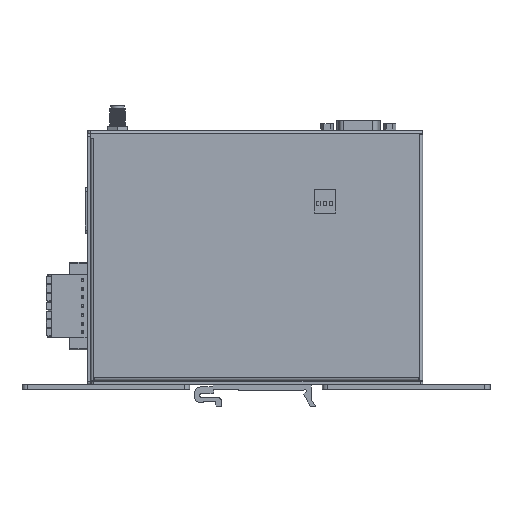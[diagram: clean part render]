
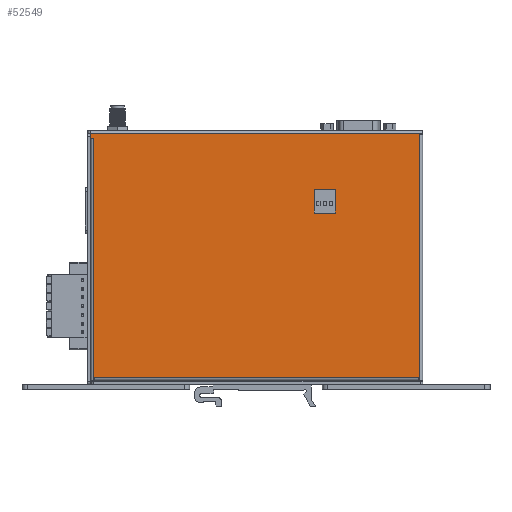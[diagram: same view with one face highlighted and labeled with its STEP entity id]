
A CAD part, front view. The second image highlights one B-rep face of the part: STEP entity #52549.
In plain terms, the highlighted planar face has unit normal (0, -1, 0).
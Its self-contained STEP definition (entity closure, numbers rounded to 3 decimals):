
#12535=DIRECTION('',(-1.,0.,0.));
#12536=VECTOR('',#12535,8.58);
#12537=CARTESIAN_POINT('',(34.858,-8.8,25.624));
#12538=LINE('',#12537,#12536);
#12544=DIRECTION('',(0.,0.,
-1.));
#12545=VECTOR('',#12544,1.203);
#12546=CARTESIAN_POINT('',(68.2,-8.8,-49.797));
#12547=LINE('',#12546,#12545);
#12548=DIRECTION('',(1.,0.,0.));
#12549=VECTOR('',#12548,129.8);
#12550=CARTESIAN_POINT('',(-61.6,-8.8,-49.799));
#12551=LINE('',#12550,#12549);
#15709=DIRECTION('',(0.,0.,-1.));
#15710=VECTOR('',#15709,2.);
#15711=CARTESIAN_POINT('',(-63.1,-8.8,47.8));
#15712=LINE('',#15711,#15710);
#15721=DIRECTION('',(-1.,0.,0.));
#15722=VECTOR('',#15721,132.8);
#15723=CARTESIAN_POINT('',(69.7,-8.8,47.8));
#15724=LINE('',#15723,#15722);
#15742=DIRECTION('',(0.,0.,1.));
#15743=VECTOR('',#15742,0.3);
#15744=CARTESIAN_POINT('',(69.7,-8.8,47.5));
#15745=LINE('',#15744,#15743);
#15787=DIRECTION('',(1.,0.,0.));
#15788=VECTOR('',#15787,1.203);
#15789=CARTESIAN_POINT('',(68.497,-8.8,47.5));
#15790=LINE('',#15789,#15788);
#15795=DIRECTION('',(0.,0.,1.));
#15796=VECTOR('',#15795,98.5);
#15797=CARTESIAN_POINT('',(68.499,-8.8,-51.));
#15798=LINE('',#15797,#15796);
#15901=DIRECTION('',(1.,0.,0.));
#15902=VECTOR('',#15901,0.299);
#15903=CARTESIAN_POINT('',(68.2,-8.8,-51.));
#15904=LINE('',#15903,#15902);
#18668=DIRECTION('',(1.,0.,0.));
#18669=VECTOR('',#18668,1.2);
#18670=CARTESIAN_POINT('',(-63.1,-8.8,45.8));
#18671=LINE('',#18670,#18669);
#18677=DIRECTION('',(0.,0.,-1.));
#18678=VECTOR('',#18677,96.8);
#18679=CARTESIAN_POINT('',(-61.9,-8.8,45.8));
#18680=LINE('',#18679,#18678);
#18690=DIRECTION('',(1.,0.,0.));
#18691=VECTOR('',#18690,0.3);
#18692=CARTESIAN_POINT('',(-61.9,-8.8,-51.));
#18693=LINE('',#18692,#18691);
#19118=DIRECTION('',(0.,0.,1.));
#19119=VECTOR('',#19118,1.201);
#19120=CARTESIAN_POINT('',(-61.6,-8.8,-51.));
#19121=LINE('',#19120,#19119);
#20268=DIRECTION('',(0.,0.,1.));
#20269=VECTOR('',#20268,9.5);
#20270=CARTESIAN_POINT('',(26.278,-8.8,16.124));
#20271=LINE('',#20270,#20269);
#20280=DIRECTION('',(-1.,0.,0.));
#20281=VECTOR('',#20280,8.58);
#20282=CARTESIAN_POINT('',(34.858,-8.8,16.124));
#20283=LINE('',#20282,#20281);
#20292=DIRECTION('',(0.,0.,-1.));
#20293=VECTOR('',#20292,9.5);
#20294=CARTESIAN_POINT('',(34.858,-8.8,25.624));
#20295=LINE('',#20294,#20293);
#33256=CARTESIAN_POINT('',(34.858,-8.8,25.624));
#33257=VERTEX_POINT('',#33256);
#33258=CARTESIAN_POINT('',(68.2,-8.8,-49.797));
#33259=CARTESIAN_POINT('',(68.2,-8.8,-51.));
#33260=VERTEX_POINT('',#33258);
#33261=VERTEX_POINT('',#33259);
#33262=CARTESIAN_POINT('',(-61.6,-8.8,-51.));
#33263=CARTESIAN_POINT('',(-61.6,-8.8,-49.799));
#33264=VERTEX_POINT('',#33262);
#33265=VERTEX_POINT('',#33263);
#33266=CARTESIAN_POINT('',(-61.9,-8.8,-51.));
#33267=VERTEX_POINT('',#33266);
#33268=CARTESIAN_POINT('',(-63.1,-8.8,45.8));
#33269=CARTESIAN_POINT('',(-61.9,-8.8,45.8));
#33270=VERTEX_POINT('',#33268);
#33271=VERTEX_POINT('',#33269);
#33272=CARTESIAN_POINT('',(-63.1,-8.8,47.8));
#33273=VERTEX_POINT('',#33272);
#33274=CARTESIAN_POINT('',(69.7,-8.8,47.5));
#33275=CARTESIAN_POINT('',(69.7,-8.8,47.8));
#33276=VERTEX_POINT('',#33274);
#33277=VERTEX_POINT('',#33275);
#33278=CARTESIAN_POINT('',(68.497,-8.8,47.5));
#33279=VERTEX_POINT('',#33278);
#33280=CARTESIAN_POINT('',(68.499,-8.8,-51.));
#33281=VERTEX_POINT('',#33280);
#33282=CARTESIAN_POINT('',(26.278,-8.8,25.624));
#33283=VERTEX_POINT('',#33282);
#33284=CARTESIAN_POINT('',(26.278,-8.8,16.124));
#33285=VERTEX_POINT('',#33284);
#33286=CARTESIAN_POINT('',(34.858,-8.8,16.124));
#33287=VERTEX_POINT('',#33286);
#52509=CARTESIAN_POINT('',(3.3,-8.8,-1.6));
#52510=DIRECTION('',(0.,1.,0.));
#52511=DIRECTION('',(1.,0.,0.));
#52512=AXIS2_PLACEMENT_3D('',#52509,#52510,#52511);
#52513=PLANE('',#52512);
#52515=ORIENTED_EDGE('',*,*,#52514,.F.);
#52517=ORIENTED_EDGE('',*,*,#52516,.F.);
#52519=ORIENTED_EDGE('',*,*,#52518,.F.);
#52521=ORIENTED_EDGE('',*,*,#52520,.F.);
#52523=ORIENTED_EDGE('',*,*,#52522,.F.);
#52525=ORIENTED_EDGE('',*,*,#52524,.F.);
#52527=ORIENTED_EDGE('',*,*,#52526,.F.);
#52529=ORIENTED_EDGE('',*,*,#52528,.F.);
#52531=ORIENTED_EDGE('',*,*,#52530,.F.);
#52533=ORIENTED_EDGE('',*,*,#52532,.F.);
#52535=ORIENTED_EDGE('',*,*,#52534,.F.);
#52537=ORIENTED_EDGE('',*,*,#52536,.F.);
#52538=EDGE_LOOP('',(#52515,#52517,#52519,#52521,#52523,#52525,#52527,#52529,
#52531,#52533,#52535,#52537));
#52539=FACE_OUTER_BOUND('',#52538,.F.);
#52540=ORIENTED_EDGE('',*,*,#52499,.T.);
#52542=ORIENTED_EDGE('',*,*,#52541,.F.);
#52544=ORIENTED_EDGE('',*,*,#52543,.F.);
#52546=ORIENTED_EDGE('',*,*,#52545,.F.);
#52547=EDGE_LOOP('',(#52540,#52542,#52544,#52546));
#52548=FACE_BOUND('',#52547,.F.);
#52499=EDGE_CURVE('',#33257,#33283,#12538,.T.);
#52514=EDGE_CURVE('',#33260,#33261,#12547,.T.);
#52516=EDGE_CURVE('',#33265,#33260,#12551,.T.);
#52518=EDGE_CURVE('',#33264,#33265,#19121,.T.);
#52520=EDGE_CURVE('',#33267,#33264,#18693,.T.);
#52522=EDGE_CURVE('',#33271,#33267,#18680,.T.);
#52524=EDGE_CURVE('',#33270,#33271,#18671,.T.);
#52526=EDGE_CURVE('',#33273,#33270,#15712,.T.);
#52528=EDGE_CURVE('',#33277,#33273,#15724,.T.);
#52530=EDGE_CURVE('',#33276,#33277,#15745,.T.);
#52532=EDGE_CURVE('',#33279,#33276,#15790,.T.);
#52534=EDGE_CURVE('',#33281,#33279,#15798,.T.);
#52536=EDGE_CURVE('',#33261,#33281,#15904,.T.);
#52541=EDGE_CURVE('',#33285,#33283,#20271,.T.);
#52543=EDGE_CURVE('',#33287,#33285,#20283,.T.);
#52545=EDGE_CURVE('',#33257,#33287,#20295,.T.);
#52549=ADVANCED_FACE('',(#52539,#52548),#52513,.F.);
